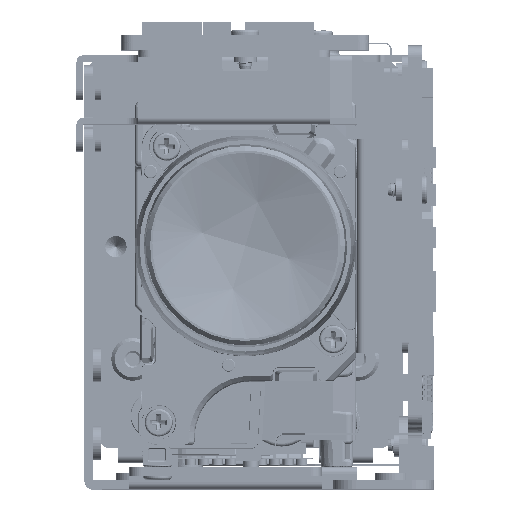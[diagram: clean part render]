
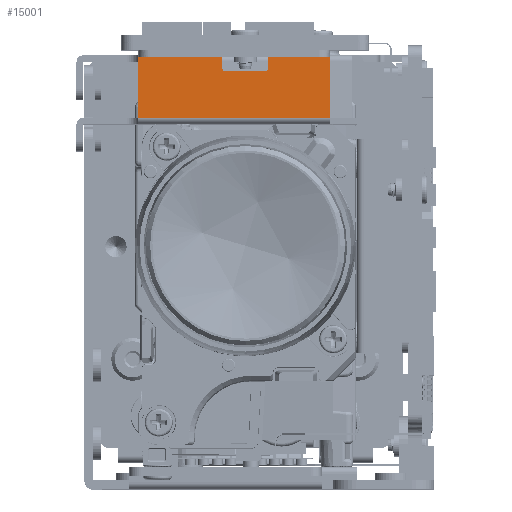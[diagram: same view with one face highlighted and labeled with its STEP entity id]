
A CAD part, top view. The second image highlights one B-rep face of the part: STEP entity #15001.
In plain terms, the highlighted planar face has unit normal (0, 0, 1) as drawn and (0, 0, -1) by its records, which use the part's own axes.
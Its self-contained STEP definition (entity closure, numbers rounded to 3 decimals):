
#9492=CARTESIAN_POINT('Vertex',(9.5,11.4,-42.6)) ;
#9499=CARTESIAN_POINT('Vertex',(-7.5,11.4,-42.6)) ;
#9502=CARTESIAN_POINT('Line Origine',(9.5,11.4,-42.6)) ;
#10672=CARTESIAN_POINT('Vertex',(-7.5,16.8,-42.6)) ;
#10675=CARTESIAN_POINT('Line Origine',(-7.5,14.1,-42.6)) ;
#10703=CARTESIAN_POINT('Vertex',(9.5,16.8,-42.6)) ;
#10716=CARTESIAN_POINT('Line Origine',(9.5,14.1,-42.6)) ;
#12555=CARTESIAN_POINT('Line Origine',(-4.775,16.8,-42.6)) ;
#12559=CARTESIAN_POINT('Vertex',(-2.05,16.8,-42.6)) ;
#12595=CARTESIAN_POINT('Line Origine',(5.775,16.8,-42.6)) ;
#12599=CARTESIAN_POINT('Vertex',(2.05,16.8,-42.6)) ;
#14911=CARTESIAN_POINT('Vertex',(-2.05,15.8,-42.6)) ;
#14914=CARTESIAN_POINT('Line Origine',(-2.05,16.3,-42.6)) ;
#14950=CARTESIAN_POINT('Vertex',(-1.75,15.5,-42.6)) ;
#14953=CARTESIAN_POINT('Axis2P3D Location',(-1.75,15.8,-42.6)) ;
#14965=CARTESIAN_POINT('Axis2P3D Location',(9.5,11.4,-42.6)) ;
#14970=CARTESIAN_POINT('Line Origine',(2.05,16.3,-42.6)) ;
#14974=CARTESIAN_POINT('Vertex',(2.05,15.8,-42.6)) ;
#14977=CARTESIAN_POINT('Line Origine',(0.,15.5,-42.6)) ;
#14981=CARTESIAN_POINT('Vertex',(1.75,15.5,-42.6)) ;
#14984=CARTESIAN_POINT('Axis2P3D Location',(1.75,15.8,-42.6)) ;
#9503=DIRECTION('Vector Direction',(1.,0.,0.)) ;
#10676=DIRECTION('Vector Direction',(0.,1.,0.)) ;
#10717=DIRECTION('Vector Direction',(0.,-1.,0.)) ;
#12556=DIRECTION('Vector Direction',(1.,0.,0.)) ;
#12596=DIRECTION('Vector Direction',(1.,0.,0.)) ;
#14915=DIRECTION('Vector Direction',(0.,1.,0.)) ;
#14954=DIRECTION('Axis2P3D Direction',(0.,0.,1.)) ;
#14966=DIRECTION('Axis2P3D Direction',(-0.,0.,1.)) ;
#14967=DIRECTION('Axis2P3D XDirection',(0.,-1.,0.)) ;
#14971=DIRECTION('Vector Direction',(0.,1.,0.)) ;
#14978=DIRECTION('Vector Direction',(-1.,0.,0.)) ;
#14985=DIRECTION('Axis2P3D Direction',(-0.,0.,1.)) ;
#14955=AXIS2_PLACEMENT_3D('Circle Axis2P3D',#14953,#14954,$) ;
#14968=AXIS2_PLACEMENT_3D('Plane Axis2P3D',#14965,#14966,#14967) ;
#14986=AXIS2_PLACEMENT_3D('Circle Axis2P3D',#14984,#14985,$) ;
#14990=ORIENTED_EDGE('',*,*,#14976,.T.) ;
#14991=ORIENTED_EDGE('',*,*,#12601,.T.) ;
#14992=ORIENTED_EDGE('',*,*,#10720,.T.) ;
#14993=ORIENTED_EDGE('',*,*,#9506,.T.) ;
#14994=ORIENTED_EDGE('',*,*,#10679,.T.) ;
#14995=ORIENTED_EDGE('',*,*,#12561,.T.) ;
#14996=ORIENTED_EDGE('',*,*,#14918,.F.) ;
#14997=ORIENTED_EDGE('',*,*,#14957,.T.) ;
#14998=ORIENTED_EDGE('',*,*,#14983,.F.) ;
#14999=ORIENTED_EDGE('',*,*,#14988,.T.) ;
#9504=VECTOR('Line Direction',#9503,1.) ;
#10677=VECTOR('Line Direction',#10676,1.) ;
#10718=VECTOR('Line Direction',#10717,1.) ;
#12557=VECTOR('Line Direction',#12556,1.) ;
#12597=VECTOR('Line Direction',#12596,1.) ;
#14916=VECTOR('Line Direction',#14915,1.) ;
#14972=VECTOR('Line Direction',#14971,1.) ;
#14979=VECTOR('Line Direction',#14978,1.) ;
#15001=ADVANCED_FACE('\X2\FF76FF6FFF84\X0\ - \X2\62BC305751FA3057\X0\7',(#15000),#14969,.F.) ;
#14956=CIRCLE('generated circle',#14955,0.3) ;
#14987=CIRCLE('generated circle',#14986,0.3) ;
#9506=EDGE_CURVE('',#9493,#9500,#9505,.F.) ;
#10679=EDGE_CURVE('',#9500,#10673,#10678,.T.) ;
#10720=EDGE_CURVE('',#10704,#9493,#10719,.T.) ;
#12561=EDGE_CURVE('',#10673,#12560,#12558,.T.) ;
#12601=EDGE_CURVE('',#12600,#10704,#12598,.T.) ;
#14918=EDGE_CURVE('',#14912,#12560,#14917,.T.) ;
#14957=EDGE_CURVE('',#14912,#14951,#14956,.T.) ;
#14976=EDGE_CURVE('',#14975,#12600,#14973,.T.) ;
#14983=EDGE_CURVE('',#14982,#14951,#14980,.T.) ;
#14988=EDGE_CURVE('',#14982,#14975,#14987,.T.) ;
#14989=EDGE_LOOP('',(#14990,#14991,#14992,#14993,#14994,#14995,#14996,#14997,#14998,#14999)) ;
#15000=FACE_OUTER_BOUND('',#14989,.T.) ;
#9505=LINE('Line',#9502,#9504) ;
#10678=LINE('Line',#10675,#10677) ;
#10719=LINE('Line',#10716,#10718) ;
#12558=LINE('Line',#12555,#12557) ;
#12598=LINE('Line',#12595,#12597) ;
#14917=LINE('Line',#14914,#14916) ;
#14973=LINE('Line',#14970,#14972) ;
#14980=LINE('Line',#14977,#14979) ;
#14969=PLANE('Plane',#14968) ;
#9493=VERTEX_POINT('',#9492) ;
#9500=VERTEX_POINT('',#9499) ;
#10673=VERTEX_POINT('',#10672) ;
#10704=VERTEX_POINT('',#10703) ;
#12560=VERTEX_POINT('',#12559) ;
#12600=VERTEX_POINT('',#12599) ;
#14912=VERTEX_POINT('',#14911) ;
#14951=VERTEX_POINT('',#14950) ;
#14975=VERTEX_POINT('',#14974) ;
#14982=VERTEX_POINT('',#14981) ;
